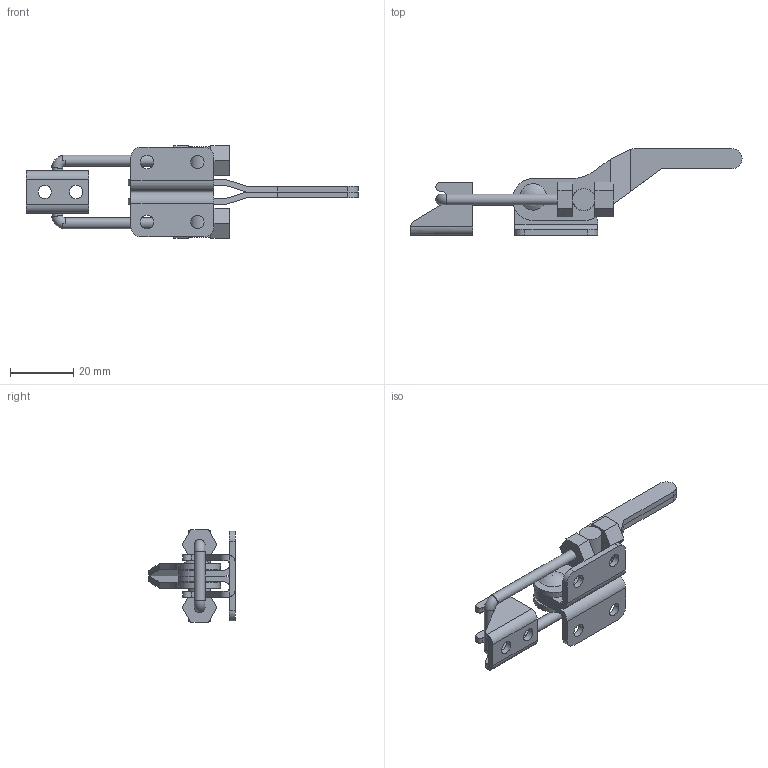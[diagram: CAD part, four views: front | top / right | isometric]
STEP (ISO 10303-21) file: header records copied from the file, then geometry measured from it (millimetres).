
FILE_DESCRIPTION((' '),'2;1');
FILE_NAME('C:\Users\Nick\Desktop\PCU-Sereis\PCU-360\3D\PCU-360.stp','2015-07-24T11:37:21',(' '),(' '),' ','ACIS',' ');
FILE_SCHEMA(('CONFIG_CONTROL_DESIGN'));
Length unit declared in the file: inch
Products named in the file (16): C:\Users\Nick\Desktop\PCU-Sereis\PCU-360\3D\PCU-360.stp; Body1; Body2; Body3; Body4; Body5; Body6; Body7; Body8; Body9; Body10; Body11; Body12; Body13; Body14; Body15
Assembly tree (15 placements, depth 2):
  C:\Users\Nick\Desktop\PCU-Sereis\PCU-360\3D\PCU-360.stp
    Body1
    Body2
    Body3
    Body4
    Body5
    Body6
    Body7
    Body8
    Body9
    Body10
    Body11
    Body12
    Body13
    Body14
    Body15
Bounding box: 105.22 x 27.5 x 29.39 mm (x, y, z)
Volume: 10083.9 mm3; surface area: 11983.4 mm2
Topology: 15 solids, 15 shells, 169 faces, 418 edges, 277 vertices
Faces by surface type: plane 106, cylinder 60, torus 2, sphere 1
Full cylindrical faces by diameter (mm): 3.429 x3, 4.191 x6, 4.305 x2, 4.75 x5, 6.985 x2, 7.087 x2, 7.938 x2
Entity records: 7306 total; most frequent: CARTESIAN_POINT 1107, DIRECTION 866, ORIENTED_EDGE 750, EDGE_CURVE 375, AXIS2_PLACEMENT_3D 313, VERTEX_POINT 263, VECTOR 240, LINE 240
